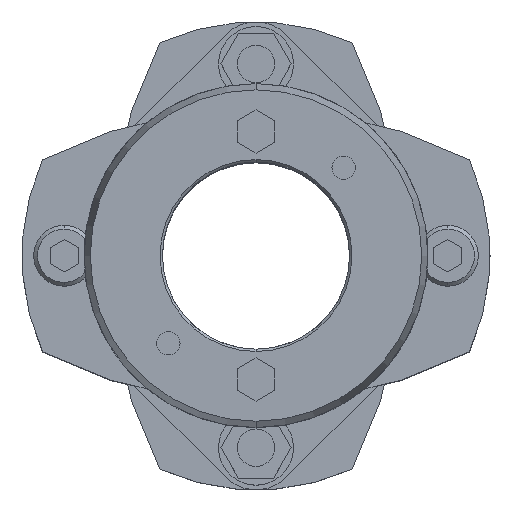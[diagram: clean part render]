
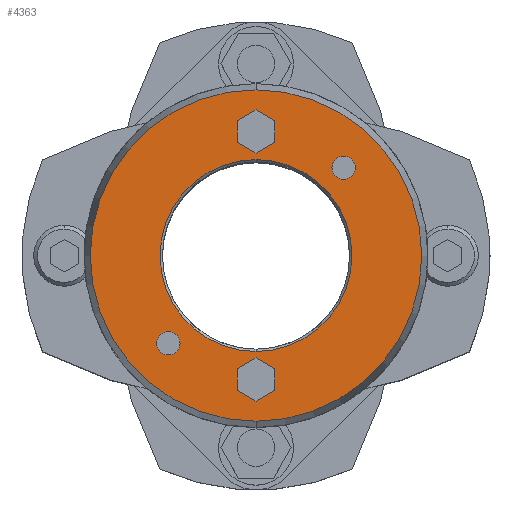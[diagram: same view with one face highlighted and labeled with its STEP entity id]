
A CAD part, top view. The second image highlights one B-rep face of the part: STEP entity #4363.
In plain terms, the highlighted planar face has unit normal (0, 0, 1).
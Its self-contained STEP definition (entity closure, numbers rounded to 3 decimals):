
#2325=CARTESIAN_POINT('',(0.,20.5,55.5));
#2326=VERTEX_POINT('',#2325);
#2342=CARTESIAN_POINT('',(0.,-20.5,55.5));
#2343=VERTEX_POINT('',#2342);
#2350=CARTESIAN_POINT('',(0.,0.,55.5));
#2351=DIRECTION('',(0.0,0.0,1.0));
#2352=DIRECTION('',(0.0,1.0,0.0));
#2353=AXIS2_PLACEMENT_3D('',#2350,#2351,#2352);
#2354=CIRCLE('',#2353,20.5);
#2355=EDGE_CURVE('',#2343,#2326,#2354,.T.);
#2471=CARTESIAN_POINT('',(0.,-35.41,55.5));
#2472=VERTEX_POINT('',#2471);
#2481=CARTESIAN_POINT('',(0.,35.41,55.5));
#2482=VERTEX_POINT('',#2481);
#2483=CARTESIAN_POINT('',(0.,0.,55.5));
#2484=DIRECTION('',(0.0,0.0,-1.0));
#2485=DIRECTION('',(0.0,-1.0,0.0));
#2486=AXIS2_PLACEMENT_3D('',#2483,#2484,#2485);
#2487=CIRCLE('',#2486,35.41);
#2488=EDGE_CURVE('',#2472,#2482,#2487,.T.);
#2657=CARTESIAN_POINT('',(18.738,21.238,55.5));
#2658=VERTEX_POINT('',#2657);
#2674=CARTESIAN_POINT('',(18.738,16.238,55.5));
#2675=VERTEX_POINT('',#2674);
#2682=CARTESIAN_POINT('',(18.738,18.738,55.5));
#2683=DIRECTION('',(0.0,0.0,-1.0));
#2684=DIRECTION('',(0.0,1.0,0.0));
#2685=AXIS2_PLACEMENT_3D('',#2682,#2683,#2684);
#2686=CIRCLE('',#2685,2.5);
#2687=EDGE_CURVE('',#2658,#2675,#2686,.T.);
#2699=CARTESIAN_POINT('',(-18.738,-16.238,55.5));
#2700=VERTEX_POINT('',#2699);
#2716=CARTESIAN_POINT('',(-18.738,-21.238,55.5));
#2717=VERTEX_POINT('',#2716);
#2724=CARTESIAN_POINT('',(-18.738,-18.738,55.5));
#2725=DIRECTION('',(0.0,0.0,-1.0));
#2726=DIRECTION('',(0.0,1.0,0.0));
#2727=AXIS2_PLACEMENT_3D('',#2724,#2725,#2726);
#2728=CIRCLE('',#2727,2.5);
#2729=EDGE_CURVE('',#2700,#2717,#2728,.T.);
#3489=CARTESIAN_POINT('',(0.,-21.881,55.5));
#3490=VERTEX_POINT('',#3489);
#3497=CARTESIAN_POINT('',(-4.,-24.191,55.5));
#3498=VERTEX_POINT('',#3497);
#3499=CARTESIAN_POINT('',(-4.,-24.191,55.5));
#3500=DIRECTION('',(0.866,0.5,0.0));
#3501=VECTOR('',#3500,4.619);
#3502=LINE('',#3499,#3501);
#3503=EDGE_CURVE('',#3498,#3490,#3502,.T.);
#3527=CARTESIAN_POINT('',(4.,-24.191,55.5));
#3528=VERTEX_POINT('',#3527);
#3535=CARTESIAN_POINT('',(0.,-21.881,55.5));
#3536=DIRECTION('',(0.866,-0.5,0.0));
#3537=VECTOR('',#3536,4.619);
#3538=LINE('',#3535,#3537);
#3539=EDGE_CURVE('',#3490,#3528,#3538,.T.);
#3558=CARTESIAN_POINT('',(4.,-28.809,55.5));
#3559=VERTEX_POINT('',#3558);
#3566=CARTESIAN_POINT('',(4.,-24.191,55.5));
#3567=DIRECTION('',(0.0,-1.0,0.0));
#3568=VECTOR('',#3567,4.619);
#3569=LINE('',#3566,#3568);
#3570=EDGE_CURVE('',#3528,#3559,#3569,.T.);
#3589=CARTESIAN_POINT('',(0.,-31.119,55.5));
#3590=VERTEX_POINT('',#3589);
#3597=CARTESIAN_POINT('',(4.,-28.809,55.5));
#3598=DIRECTION('',(-0.866,-0.5,0.0));
#3599=VECTOR('',#3598,4.619);
#3600=LINE('',#3597,#3599);
#3601=EDGE_CURVE('',#3559,#3590,#3600,.T.);
#3620=CARTESIAN_POINT('',(-4.,-28.809,55.5));
#3621=VERTEX_POINT('',#3620);
#3628=CARTESIAN_POINT('',(0.,-31.119,55.5));
#3629=DIRECTION('',(-0.866,0.5,0.0));
#3630=VECTOR('',#3629,4.619);
#3631=LINE('',#3628,#3630);
#3632=EDGE_CURVE('',#3590,#3621,#3631,.T.);
#3650=CARTESIAN_POINT('',(-4.,-28.809,55.5));
#3651=DIRECTION('',(0.0,1.0,0.0));
#3652=VECTOR('',#3651,4.619);
#3653=LINE('',#3650,#3652);
#3654=EDGE_CURVE('',#3621,#3498,#3653,.T.);
#3689=CARTESIAN_POINT('',(0.,31.119,55.5));
#3690=VERTEX_POINT('',#3689);
#3697=CARTESIAN_POINT('',(-4.,28.809,55.5));
#3698=VERTEX_POINT('',#3697);
#3699=CARTESIAN_POINT('',(-4.,28.809,55.5));
#3700=DIRECTION('',(0.866,0.5,0.0));
#3701=VECTOR('',#3700,4.619);
#3702=LINE('',#3699,#3701);
#3703=EDGE_CURVE('',#3698,#3690,#3702,.T.);
#3727=CARTESIAN_POINT('',(4.,28.809,55.5));
#3728=VERTEX_POINT('',#3727);
#3735=CARTESIAN_POINT('',(0.,31.119,55.5));
#3736=DIRECTION('',(0.866,-0.5,0.0));
#3737=VECTOR('',#3736,4.619);
#3738=LINE('',#3735,#3737);
#3739=EDGE_CURVE('',#3690,#3728,#3738,.T.);
#3758=CARTESIAN_POINT('',(4.,24.191,55.5));
#3759=VERTEX_POINT('',#3758);
#3766=CARTESIAN_POINT('',(4.,28.809,55.5));
#3767=DIRECTION('',(0.0,-1.0,0.0));
#3768=VECTOR('',#3767,4.619);
#3769=LINE('',#3766,#3768);
#3770=EDGE_CURVE('',#3728,#3759,#3769,.T.);
#3789=CARTESIAN_POINT('',(0.,21.881,55.5));
#3790=VERTEX_POINT('',#3789);
#3797=CARTESIAN_POINT('',(4.,24.191,55.5));
#3798=DIRECTION('',(-0.866,-0.5,0.0));
#3799=VECTOR('',#3798,4.619);
#3800=LINE('',#3797,#3799);
#3801=EDGE_CURVE('',#3759,#3790,#3800,.T.);
#3820=CARTESIAN_POINT('',(-4.,24.191,55.5));
#3821=VERTEX_POINT('',#3820);
#3828=CARTESIAN_POINT('',(0.,21.881,55.5));
#3829=DIRECTION('',(-0.866,0.5,0.0));
#3830=VECTOR('',#3829,4.619);
#3831=LINE('',#3828,#3830);
#3832=EDGE_CURVE('',#3790,#3821,#3831,.T.);
#3850=CARTESIAN_POINT('',(-4.,24.191,55.5));
#3851=DIRECTION('',(0.0,1.0,0.0));
#3852=VECTOR('',#3851,4.619);
#3853=LINE('',#3850,#3852);
#3854=EDGE_CURVE('',#3821,#3698,#3853,.T.);
#3880=CARTESIAN_POINT('',(-18.738,-18.738,55.5));
#3881=DIRECTION('',(0.0,0.0,-1.0));
#3882=DIRECTION('',(0.0,1.0,0.0));
#3883=AXIS2_PLACEMENT_3D('',#3880,#3881,#3882);
#3884=CIRCLE('',#3883,2.5);
#3885=EDGE_CURVE('',#2717,#2700,#3884,.T.);
#3914=CARTESIAN_POINT('',(18.738,18.738,55.5));
#3915=DIRECTION('',(0.0,0.0,-1.0));
#3916=DIRECTION('',(0.0,1.0,0.0));
#3917=AXIS2_PLACEMENT_3D('',#3914,#3915,#3916);
#3918=CIRCLE('',#3917,2.5);
#3919=EDGE_CURVE('',#2675,#2658,#3918,.T.);
#4310=CARTESIAN_POINT('',(0.,0.,55.5));
#4311=DIRECTION('',(0.0,0.0,-1.0));
#4312=DIRECTION('',(0.0,-1.0,0.0));
#4313=AXIS2_PLACEMENT_3D('',#4310,#4311,#4312);
#4314=CIRCLE('',#4313,35.41);
#4315=EDGE_CURVE('',#2482,#2472,#4314,.T.);
#4320=CARTESIAN_POINT('',(0.,3.341,55.5));
#4321=DIRECTION('',(0.0,0.0,1.0));
#4322=DIRECTION('',(0.0,1.0,0.0));
#4323=AXIS2_PLACEMENT_3D('',#4320,#4321,#4322);
#4324=PLANE('',#4323);
#4325=ORIENTED_EDGE('',*,*,#4315,.F.);
#4326=ORIENTED_EDGE('',*,*,#2488,.F.);
#4327=EDGE_LOOP('',(#4325,#4326));
#4328=FACE_OUTER_BOUND('',#4327,.T.);
#4329=ORIENTED_EDGE('',*,*,#3503,.T.);
#4330=ORIENTED_EDGE('',*,*,#3539,.T.);
#4331=ORIENTED_EDGE('',*,*,#3570,.T.);
#4332=ORIENTED_EDGE('',*,*,#3601,.T.);
#4333=ORIENTED_EDGE('',*,*,#3632,.T.);
#4334=ORIENTED_EDGE('',*,*,#3654,.T.);
#4335=EDGE_LOOP('',(#4329,#4330,#4331,#4332,#4333,#4334));
#4336=FACE_BOUND('',#4335,.T.);
#4337=ORIENTED_EDGE('',*,*,#3703,.T.);
#4338=ORIENTED_EDGE('',*,*,#3739,.T.);
#4339=ORIENTED_EDGE('',*,*,#3770,.T.);
#4340=ORIENTED_EDGE('',*,*,#3801,.T.);
#4341=ORIENTED_EDGE('',*,*,#3832,.T.);
#4342=ORIENTED_EDGE('',*,*,#3854,.T.);
#4343=EDGE_LOOP('',(#4337,#4338,#4339,#4340,#4341,#4342));
#4344=FACE_BOUND('',#4343,.T.);
#4345=ORIENTED_EDGE('',*,*,#2729,.T.);
#4346=ORIENTED_EDGE('',*,*,#3885,.T.);
#4347=EDGE_LOOP('',(#4345,#4346));
#4348=FACE_BOUND('',#4347,.T.);
#4349=ORIENTED_EDGE('',*,*,#2687,.T.);
#4350=ORIENTED_EDGE('',*,*,#3919,.T.);
#4351=EDGE_LOOP('',(#4349,#4350));
#4352=FACE_BOUND('',#4351,.T.);
#4353=ORIENTED_EDGE('',*,*,#2355,.F.);
#4354=CARTESIAN_POINT('',(0.,0.,55.5));
#4355=DIRECTION('',(0.0,0.0,1.0));
#4356=DIRECTION('',(0.0,1.0,0.0));
#4357=AXIS2_PLACEMENT_3D('',#4354,#4355,#4356);
#4358=CIRCLE('',#4357,20.5);
#4359=EDGE_CURVE('',#2326,#2343,#4358,.T.);
#4360=ORIENTED_EDGE('',*,*,#4359,.F.);
#4361=EDGE_LOOP('',(#4353,#4360));
#4362=FACE_BOUND('',#4361,.T.);
#4363=ADVANCED_FACE('',(#4328,#4336,#4344,#4348,#4352,#4362),#4324,.T.);
